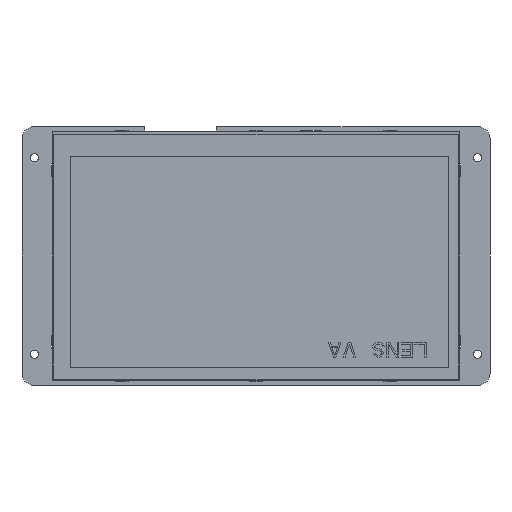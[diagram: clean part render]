
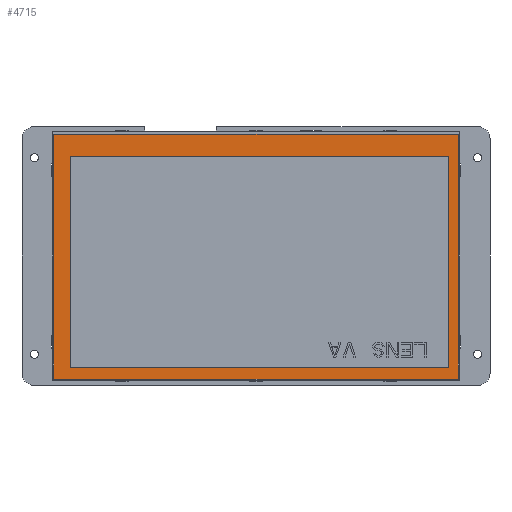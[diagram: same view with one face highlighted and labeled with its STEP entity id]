
A CAD part, front view. The second image highlights one B-rep face of the part: STEP entity #4715.
In plain terms, the highlighted planar face has unit normal (0, -1, 0) as drawn and (0, 1, 0) by its records, which use the part's own axes.
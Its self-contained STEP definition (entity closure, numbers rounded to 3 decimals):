
#2926=DIRECTION('',(0.,0.,1.));
#2927=VECTOR('',#2926,99.7);
#2928=CARTESIAN_POINT('',(-82.3,1.775,-49.85));
#2929=LINE('',#2928,#2927);
#2930=DIRECTION('',(-1.,0.,0.));
#2931=VECTOR('',#2930,164.6);
#2932=CARTESIAN_POINT('',(82.3,1.775,-49.85));
#2933=LINE('',#2932,#2931);
#2934=DIRECTION('',(0.,0.,-1.));
#2935=VECTOR('',#2934,99.7);
#2936=CARTESIAN_POINT('',(82.3,1.775,49.85));
#2937=LINE('',#2936,#2935);
#2938=DIRECTION('',(1.,0.,0.));
#2939=VECTOR('',#2938,164.6);
#2940=CARTESIAN_POINT('',(-82.3,1.775,49.85));
#2941=LINE('',#2940,#2939);
#2942=DIRECTION('',(0.,0.,1.));
#2943=VECTOR('',#2942,85.92);
#2944=CARTESIAN_POINT('',(-78.53,1.775,-45.22));
#2945=LINE('',#2944,#2943);
#2946=DIRECTION('',(1.,0.,0.));
#2947=VECTOR('',#2946,154.08);
#2948=CARTESIAN_POINT('',(-78.53,1.775,40.7));
#2949=LINE('',#2948,#2947);
#2950=DIRECTION('',(0.,0.,-1.));
#2951=VECTOR('',#2950,85.92);
#2952=CARTESIAN_POINT('',(75.55,1.775,40.7));
#2953=LINE('',#2952,#2951);
#2954=DIRECTION('',(-1.,0.,0.));
#2955=VECTOR('',#2954,154.08);
#2956=CARTESIAN_POINT('',(75.55,1.775,-45.22));
#2957=LINE('',#2956,#2955);
#4198=CARTESIAN_POINT('',(-82.3,1.775,-49.85));
#4199=CARTESIAN_POINT('',(-82.3,1.775,49.85));
#4200=VERTEX_POINT('',#4198);
#4201=VERTEX_POINT('',#4199);
#4202=CARTESIAN_POINT('',(82.3,1.775,49.85));
#4203=VERTEX_POINT('',#4202);
#4204=CARTESIAN_POINT('',(82.3,1.775,-49.85));
#4205=VERTEX_POINT('',#4204);
#4414=CARTESIAN_POINT('',(-78.53,1.775,-45.22));
#4415=CARTESIAN_POINT('',(-78.53,1.775,40.7));
#4416=VERTEX_POINT('',#4414);
#4417=VERTEX_POINT('',#4415);
#4418=CARTESIAN_POINT('',(75.55,1.775,40.7));
#4419=VERTEX_POINT('',#4418);
#4420=CARTESIAN_POINT('',(75.55,1.775,-45.22));
#4421=VERTEX_POINT('',#4420);
#4694=CARTESIAN_POINT('',(0.,1.775,0.));
#4695=DIRECTION('',(0.,1.,0.));
#4696=DIRECTION('',(1.,0.,0.));
#4697=AXIS2_PLACEMENT_3D('',#4694,#4695,#4696);
#4698=PLANE('',#4697);
#4699=ORIENTED_EDGE('',*,*,#4646,.F.);
#4700=ORIENTED_EDGE('',*,*,#4661,.F.);
#4701=ORIENTED_EDGE('',*,*,#4675,.F.);
#4702=ORIENTED_EDGE('',*,*,#4688,.F.);
#4703=EDGE_LOOP('',(#4699,#4700,#4701,#4702));
#4704=FACE_OUTER_BOUND('',#4703,.F.);
#4706=ORIENTED_EDGE('',*,*,#4705,.T.);
#4708=ORIENTED_EDGE('',*,*,#4707,.T.);
#4710=ORIENTED_EDGE('',*,*,#4709,.T.);
#4712=ORIENTED_EDGE('',*,*,#4711,.T.);
#4713=EDGE_LOOP('',(#4706,#4708,#4710,#4712));
#4714=FACE_BOUND('',#4713,.F.);
#4646=EDGE_CURVE('',#4200,#4201,#2929,.T.);
#4661=EDGE_CURVE('',#4205,#4200,#2933,.T.);
#4675=EDGE_CURVE('',#4203,#4205,#2937,.T.);
#4688=EDGE_CURVE('',#4201,#4203,#2941,.T.);
#4705=EDGE_CURVE('',#4416,#4417,#2945,.T.);
#4707=EDGE_CURVE('',#4417,#4419,#2949,.T.);
#4709=EDGE_CURVE('',#4419,#4421,#2953,.T.);
#4711=EDGE_CURVE('',#4421,#4416,#2957,.T.);
#4715=ADVANCED_FACE('',(#4704,#4714),#4698,.T.);
